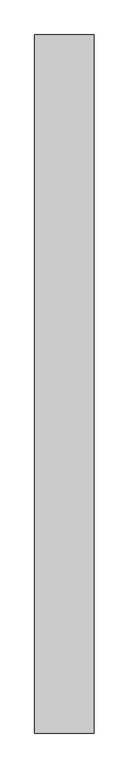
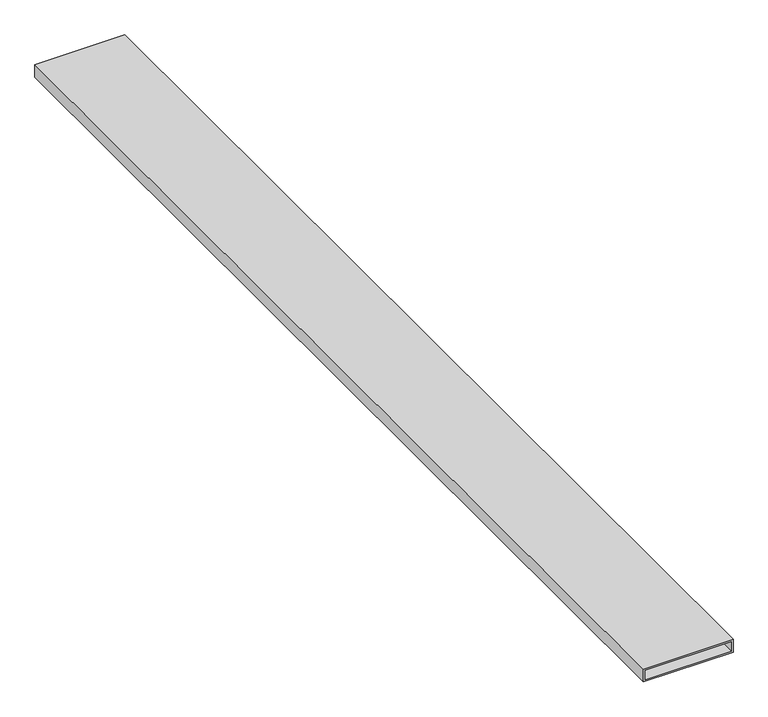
"""IFC4 building model written with IfcOpenShell, lengths in millimetres: proxy geometry, Tube métal épine."""

from ifc_helpers import new_model, si_unit, frame, origin, place, context, project, spatial, polyline, outline, extrude, source, transform, mapped, element, save


def generic_models_c6ffc7dd(model_context):
    return source(origin(), model_context, "Body", "SweptSolid", [
        extrude(outline(polyline([(30.0, 31.123827), (30.0, -168.876173), (0.0, -168.876173), (0.0, 31.123827), (30.0, 31.123827)]), holes=[polyline([(4.0, -164.876173), (26.0, -164.876173), (26.0, 27.123827), (4.0, 27.123827), (4.0, -164.876173)])]), frame((0.0, 0.0, 0.0), z_axis=(0.0, 1.0, 0.0), x_axis=(0.0, 0.0, 1.0)), (0.0, 0.0, 1.0), 2350.0),
    ])


if __name__ == "__main__":
    model = new_model("IFC4")
    model_context = context("Model", 3, world=origin())
    ifc_project = project(units=[si_unit("LENGTHUNIT", "METRE", prefix="MILLI")], contexts=[model_context])
    site = spatial("IfcSite", under=ifc_project)
    building = spatial("IfcBuilding", under=site)
    placement = place(None, origin())
    generic_models_shape = generic_models_c6ffc7dd(model_context)
    element("IfcBuildingElementProxy", 1, Name="Tube métal épine", ObjectType="Tube métal épine", at=placement, inside=building, context=model_context, shape_type="MappedRepresentation", body=[
        mapped(generic_models_shape, transform((0.0, 0.0, 0.0), x_axis=(1.0, 0.0, 0.0), y_axis=(0.0, 1.0, 0.0), z_axis=(0.0, 0.0, 1.0))),
    ])
    save(model, "model.ifc")
